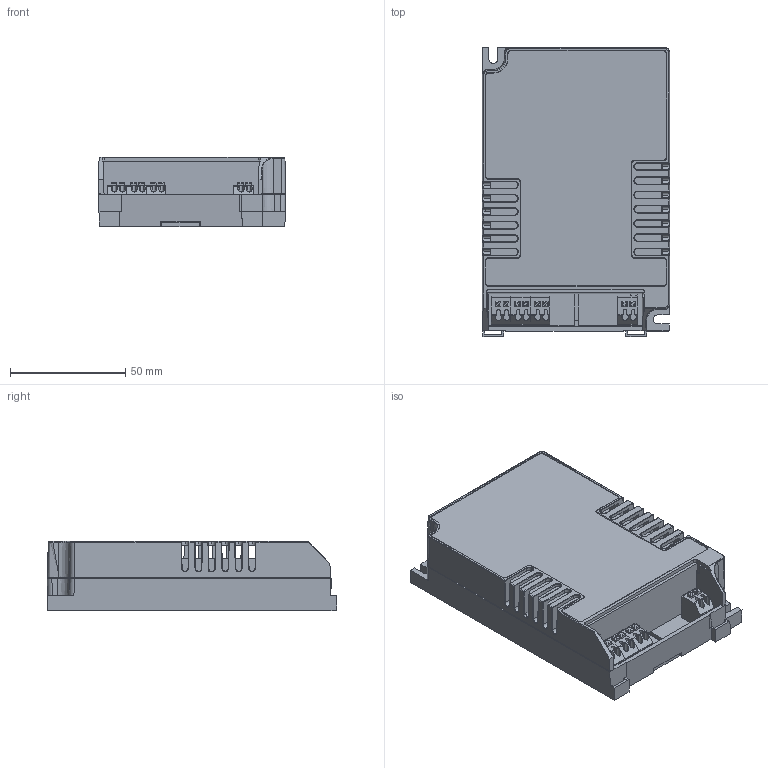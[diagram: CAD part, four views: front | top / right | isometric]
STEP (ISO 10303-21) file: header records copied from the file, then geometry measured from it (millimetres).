
FILE_DESCRIPTION (( 'STEP AP203' ), '1' );
FILE_NAME ('LC1x50-E-CC_3D.STEP', '2014-11-18T13:26:44', ( '' ), ( '' ), 'SwSTEP 2.0', 'SolidWorks 2014', '' );
FILE_SCHEMA (( 'CONFIG_CONTROL_DESIGN' ));
Length unit declared in the file: millimetre
Products named in the file (1): LC1x50-E-CC_3D
Bounding box: 81.04 x 125.32 x 30 mm (x, y, z)
Surface area: 65499.2 mm2 (no closed solid volume)
Topology: 0 solids, 10 shells, 543 faces, 1886 edges, 1284 vertices
Faces by surface type: cylinder 227, plane 208, bspline 58, torus 36, cone 14
Entity records: 23248 total; most frequent: CARTESIAN_POINT 8212, ORIENTED_EDGE 3222, DIRECTION 2817, EDGE_CURVE 1886, VERTEX_POINT 1284, VECTOR 1131, LINE 1131, AXIS2_PLACEMENT_3D 843
